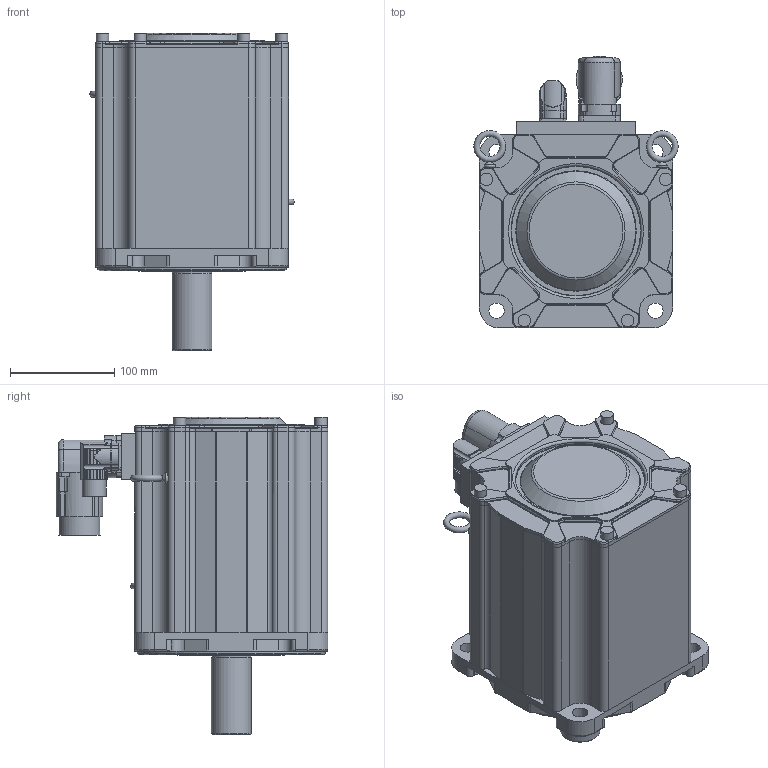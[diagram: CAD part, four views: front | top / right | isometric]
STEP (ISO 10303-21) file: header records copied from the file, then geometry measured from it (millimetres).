
FILE_DESCRIPTION((''),'2;1');
FILE_NAME('N:\SBN_SOLID_MODELS\3D MODELS\MPP1904XXX-NPSN.stp','2008-09-16T16:46:00',('je17857'),(''),'Autodesk Inventor 2008','Autodesk Inventor 2008','');
FILE_SCHEMA(('AUTOMOTIVE_DESIGN { 1 0 10303 214 1 1 1 1 }'));
Length unit declared in the file: inch
Products named in the file (1): MPP1904XXX-NPSN
Bounding box: 195.51 x 260.1 x 303.66 mm (x, y, z)
Volume: 6629940.8 mm3; surface area: 341654.2 mm2
Topology: 5 solids, 5 shells, 828 faces, 2098 edges, 1322 vertices
Faces by surface type: cylinder 373, plane 303, bspline 91, torus 46, cone 15
Full cylindrical faces by diameter (mm): 1.016 x17, 2 x2, 2.997 x2, 3.6 x4, 11.913 x4, 19.05 x1, 19.685 x1, 22.86 x1, 32.639 x1, 37.645 x1, 38.001 x1, 39.624 x1, 39.903 x1, 40.005 x1, 50.8 x1, 69.85 x1, 80.01 x1, 89.992 x1, 90 x1, 90.043 x1, 90.221 x1, 95.377 x1, 98.425 x1, 124.46 x1, 180.002 x1
Entity records: 29173 total; most frequent: CARTESIAN_POINT 8900, DIRECTION 4048, ORIENTED_EDGE 3962, EDGE_CURVE 1981, AXIS2_PLACEMENT_3D 1569, VERTEX_POINT 1294, EDGE_LOOP 975, VECTOR 910
